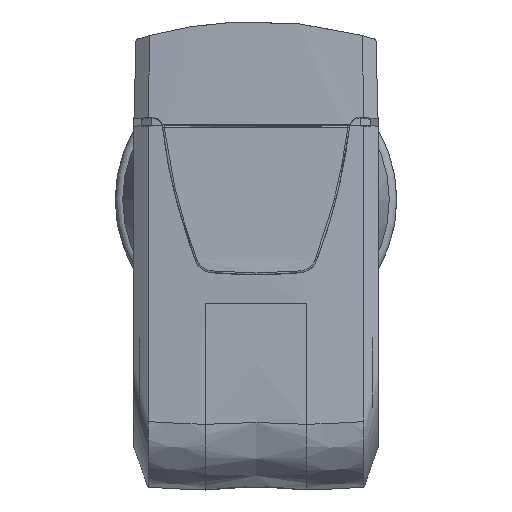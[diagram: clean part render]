
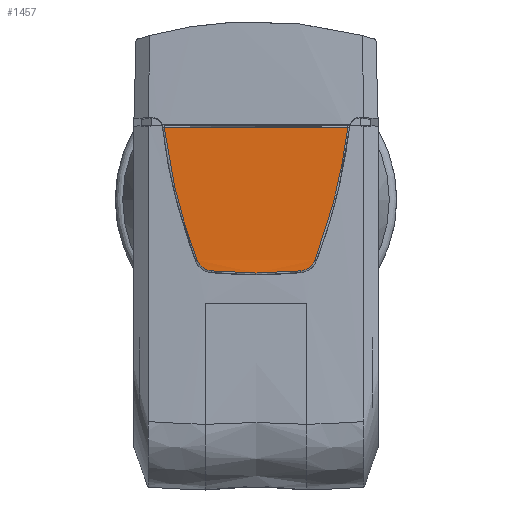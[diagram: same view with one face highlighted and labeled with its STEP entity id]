
A CAD part, left-side view. The second image highlights one B-rep face of the part: STEP entity #1457.
In plain terms, the highlighted cylindrical face has radius 84.625 mm (diameter 169.25 mm), a partial arc.
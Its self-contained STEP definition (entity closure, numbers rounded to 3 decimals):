
#1160=FACE_OUTER_BOUND('',#1919,.T.);
#1457=ADVANCED_FACE('',(#1160),#1530,.T.);
#1530=CYLINDRICAL_SURFACE('',#3702,84.625);
#1919=EDGE_LOOP('',(#2618,#2619,#2620,#2621,#2622,#2623));
#2618=ORIENTED_EDGE('',*,*,#3276,.T.);
#2619=ORIENTED_EDGE('',*,*,#3277,.T.);
#2620=ORIENTED_EDGE('',*,*,#3278,.T.);
#2621=ORIENTED_EDGE('',*,*,#3279,.T.);
#2622=ORIENTED_EDGE('',*,*,#3280,.T.);
#2623=ORIENTED_EDGE('',*,*,#3281,.T.);
#2928=VERTEX_POINT('',#7118);
#2929=VERTEX_POINT('',#7119);
#2930=VERTEX_POINT('',#7127);
#2931=VERTEX_POINT('',#7132);
#2932=VERTEX_POINT('',#7146);
#2933=VERTEX_POINT('',#7151);
#3276=EDGE_CURVE('',#2928,#2929,#3455,.T.);
#3277=EDGE_CURVE('',#2929,#2930,#3456,.T.);
#3278=EDGE_CURVE('',#2930,#2931,#3457,.T.);
#3279=EDGE_CURVE('',#2931,#2932,#3458,.T.);
#3280=EDGE_CURVE('',#2932,#2933,#3459,.T.);
#3281=EDGE_CURVE('',#2933,#2928,#3460,.T.);
#3455=B_SPLINE_CURVE_WITH_KNOTS('',3,(#7114,#7115,#7116,#7117),
 .UNSPECIFIED.,.F.,.F.,(4,4),(0.,1.),.UNSPECIFIED.);
#3456=B_SPLINE_CURVE_WITH_KNOTS('',3,(#7120,#7121,#7122,#7123,#7124,#7125,
#7126),.UNSPECIFIED.,.F.,.F.,(4,3,4),(0.,0.5,1.),
 .UNSPECIFIED.);
#3457=B_SPLINE_CURVE_WITH_KNOTS('',3,(#7128,#7129,#7130,#7131),
 .UNSPECIFIED.,.F.,.F.,(4,4),(0.,1.),.UNSPECIFIED.);
#3458=B_SPLINE_CURVE_WITH_KNOTS('',3,(#7133,#7134,#7135,#7136,#7137,#7138,
#7139,#7140,#7141,#7142,#7143,#7144,#7145),.UNSPECIFIED.,.F.,.F.,(4,3,3,
3,4),(0.,0.087,0.391,0.696,1.),
 .UNSPECIFIED.);
#3459=B_SPLINE_CURVE_WITH_KNOTS('',3,(#7147,#7148,#7149,#7150),
 .UNSPECIFIED.,.F.,.F.,(4,4),(0.,1.),.UNSPECIFIED.);
#3460=B_SPLINE_CURVE_WITH_KNOTS('',3,(#7152,#7153,#7154,#7155,#7156,#7157,
#7158,#7159,#7160,#7161,#7162,#7163,#7164),.UNSPECIFIED.,.F.,.F.,(4,3,3,
3,4),(0.,0.088,0.392,0.696,1.),
 .UNSPECIFIED.);
#3702=AXIS2_PLACEMENT_3D('',#7165,#4273,#4274);
#4273=DIRECTION('',(0.,0.,1.));
#4274=DIRECTION('',(0.,-1.,0.));
#7114=CARTESIAN_POINT('',(-44.045,-3.136,12.288));
#7115=CARTESIAN_POINT('',(-44.013,-4.004,14.559));
#7116=CARTESIAN_POINT('',(-43.979,-4.597,16.953));
#7117=CARTESIAN_POINT('',(-43.962,-4.889,19.367));
#7118=CARTESIAN_POINT('',(-44.045,-3.136,12.288));
#7119=CARTESIAN_POINT('',(-43.962,-4.889,19.367));
#7120=CARTESIAN_POINT('',(-43.962,-4.889,19.367));
#7121=CARTESIAN_POINT('',(-44.056,-3.262,19.375));
#7122=CARTESIAN_POINT('',(-44.103,-1.63,19.38));
#7123=CARTESIAN_POINT('',(-44.103,0.,19.38));
#7124=CARTESIAN_POINT('',(-44.103,1.63,19.38));
#7125=CARTESIAN_POINT('',(-44.056,3.262,19.375));
#7126=CARTESIAN_POINT('',(-43.962,4.889,19.367));
#7127=CARTESIAN_POINT('',(-43.962,4.889,19.367));
#7128=CARTESIAN_POINT('',(-43.962,4.889,19.367));
#7129=CARTESIAN_POINT('',(-43.979,4.597,16.953));
#7130=CARTESIAN_POINT('',(-44.013,4.004,14.559));
#7131=CARTESIAN_POINT('',(-44.045,3.136,12.288));
#7132=CARTESIAN_POINT('',(-44.045,3.136,12.288));
#7133=CARTESIAN_POINT('',(-44.045,3.136,12.288));
#7134=CARTESIAN_POINT('',(-44.046,3.125,12.261));
#7135=CARTESIAN_POINT('',(-44.046,3.113,12.234));
#7136=CARTESIAN_POINT('',(-44.047,3.1,12.208));
#7137=CARTESIAN_POINT('',(-44.048,3.055,12.118));
#7138=CARTESIAN_POINT('',(-44.051,2.994,12.034));
#7139=CARTESIAN_POINT('',(-44.053,2.921,11.964));
#7140=CARTESIAN_POINT('',(-44.056,2.849,11.894));
#7141=CARTESIAN_POINT('',(-44.058,2.764,11.835));
#7142=CARTESIAN_POINT('',(-44.061,2.672,11.793));
#7143=CARTESIAN_POINT('',(-44.064,2.58,11.75));
#7144=CARTESIAN_POINT('',(-44.067,2.48,11.723));
#7145=CARTESIAN_POINT('',(-44.07,2.38,11.714));
#7146=CARTESIAN_POINT('',(-44.07,2.38,11.714));
#7147=CARTESIAN_POINT('',(-44.07,2.38,11.714));
#7148=CARTESIAN_POINT('',(-44.114,0.801,11.562));
#7149=CARTESIAN_POINT('',(-44.114,-0.801,11.562));
#7150=CARTESIAN_POINT('',(-44.07,-2.38,11.714));
#7151=CARTESIAN_POINT('',(-44.07,-2.38,11.714));
#7152=CARTESIAN_POINT('',(-44.07,-2.38,11.714));
#7153=CARTESIAN_POINT('',(-44.069,-2.409,11.717));
#7154=CARTESIAN_POINT('',(-44.068,-2.438,11.721));
#7155=CARTESIAN_POINT('',(-44.067,-2.467,11.726));
#7156=CARTESIAN_POINT('',(-44.065,-2.566,11.746));
#7157=CARTESIAN_POINT('',(-44.062,-2.663,11.783));
#7158=CARTESIAN_POINT('',(-44.059,-2.75,11.834));
#7159=CARTESIAN_POINT('',(-44.056,-2.837,11.885));
#7160=CARTESIAN_POINT('',(-44.053,-2.917,11.951));
#7161=CARTESIAN_POINT('',(-44.051,-2.982,12.028));
#7162=CARTESIAN_POINT('',(-44.049,-3.047,12.105));
#7163=CARTESIAN_POINT('',(-44.047,-3.1,12.194));
#7164=CARTESIAN_POINT('',(-44.045,-3.136,12.288));
#7165=CARTESIAN_POINT('',(40.522,0.,1.5));
